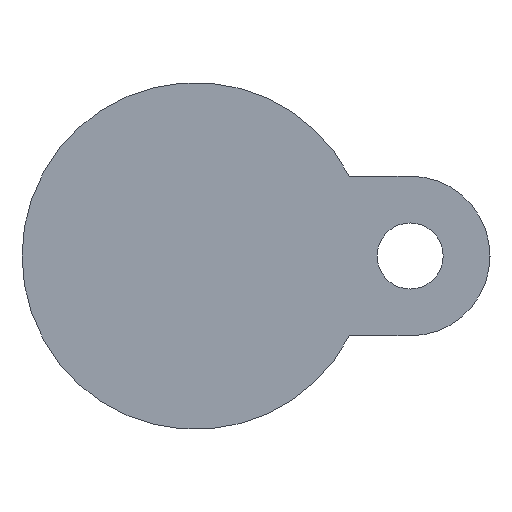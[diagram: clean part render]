
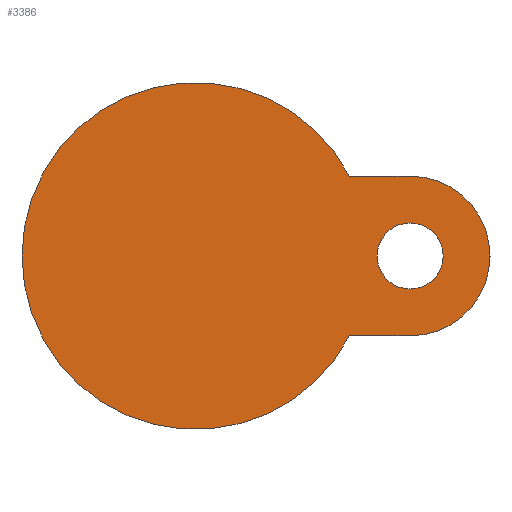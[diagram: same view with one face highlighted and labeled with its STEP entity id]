
A CAD part, front view. The second image highlights one B-rep face of the part: STEP entity #3386.
In plain terms, the highlighted planar face has unit normal (0, -1, 0).
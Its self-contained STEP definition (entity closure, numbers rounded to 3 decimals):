
#58 = ORIENTED_EDGE ( 'NONE', *, *, #1193, .F. ) ;
#71 = EDGE_LOOP ( 'NONE', ( #175, #2534, #1104, #2238, #4597, #906 ) ) ;
#129 = LINE ( 'NONE', #1836, #2260 ) ;
#147 = VERTEX_POINT ( 'NONE', #4168 ) ;
#175 = ORIENTED_EDGE ( 'NONE', *, *, #2978, .F. ) ;
#215 = PLANE ( 'NONE',  #5174 ) ;
#286 = DIRECTION ( 'NONE',  ( 1., 0., 0. ) ) ;
#389 = EDGE_CURVE ( 'NONE', #2065, #1574, #3755, .T. ) ;
#468 = AXIS2_PLACEMENT_3D ( 'NONE', #1947, #4059, #4861 ) ;
#683 = DIRECTION ( 'NONE',  ( 1., 0., 0. ) ) ;
#688 = DIRECTION ( 'NONE',  ( -1., 0., 0. ) ) ;
#712 = DIRECTION ( 'NONE',  ( 0., -1., 0. ) ) ;
#726 = DIRECTION ( 'NONE',  ( 0., -1., 0. ) ) ;
#906 = ORIENTED_EDGE ( 'NONE', *, *, #2159, .F. ) ;
#1020 = CARTESIAN_POINT ( 'NONE',  ( 39., -15., 0. ) ) ;
#1104 = ORIENTED_EDGE ( 'NONE', *, *, #389, .T. ) ;
#1193 = EDGE_CURVE ( 'NONE', #3497, #5123, #3227, .T. ) ;
#1302 = AXIS2_PLACEMENT_3D ( 'NONE', #1020, #2144, #2713 ) ;
#1303 = LINE ( 'NONE', #4058, #5366 ) ;
#1527 = DIRECTION ( 'NONE',  ( 1., 0., 0. ) ) ;
#1574 = VERTEX_POINT ( 'NONE', #2968 ) ;
#1575 = CIRCLE ( 'NONE', #1841, 31.5 ) ;
#1639 = CIRCLE ( 'NONE', #2966, 31.5 ) ;
#1836 = CARTESIAN_POINT ( 'NONE',  ( 16.055, -15., 14.5 ) ) ;
#1841 = AXIS2_PLACEMENT_3D ( 'NONE', #4722, #2296, #1851 ) ;
#1851 = DIRECTION ( 'NONE',  ( -1., 0., 0. ) ) ;
#1947 = CARTESIAN_POINT ( 'NONE',  ( 39., -15., 0. ) ) ;
#2002 = CARTESIAN_POINT ( 'NONE',  ( 27.964, -15., -14.5 ) ) ;
#2065 = VERTEX_POINT ( 'NONE', #4132 ) ;
#2144 = DIRECTION ( 'NONE',  ( 0., -1., 0. ) ) ;
#2159 = EDGE_CURVE ( 'NONE', #2587, #4067, #1575, .T. ) ;
#2238 = ORIENTED_EDGE ( 'NONE', *, *, #2538, .T. ) ;
#2260 = VECTOR ( 'NONE', #4294, 1000. ) ;
#2296 = DIRECTION ( 'NONE',  ( 0., 1., 0. ) ) ;
#2380 = CARTESIAN_POINT ( 'NONE',  ( 39., -15., 0. ) ) ;
#2534 = ORIENTED_EDGE ( 'NONE', *, *, #2920, .T. ) ;
#2538 = EDGE_CURVE ( 'NONE', #1574, #147, #3708, .T. ) ;
#2587 = VERTEX_POINT ( 'NONE', #5136 ) ;
#2594 = AXIS2_PLACEMENT_3D ( 'NONE', #4027, #712, #2755 ) ;
#2713 = DIRECTION ( 'NONE',  ( 1., 0., 0. ) ) ;
#2755 = DIRECTION ( 'NONE',  ( 1., 0., 0. ) ) ;
#2779 = CARTESIAN_POINT ( 'NONE',  ( 0., -15., 0. ) ) ;
#2883 = EDGE_CURVE ( 'NONE', #147, #4067, #129, .T. ) ;
#2920 = EDGE_CURVE ( 'NONE', #4921, #2065, #1303, .T. ) ;
#2934 = CARTESIAN_POINT ( 'NONE',  ( 45., -15., 0. ) ) ;
#2966 = AXIS2_PLACEMENT_3D ( 'NONE', #4911, #5309, #688 ) ;
#2968 = CARTESIAN_POINT ( 'NONE',  ( 53.5, -15., 0. ) ) ;
#2978 = EDGE_CURVE ( 'NONE', #4921, #2587, #1639, .T. ) ;
#3039 = EDGE_LOOP ( 'NONE', ( #58, #3299 ) ) ;
#3196 = FACE_BOUND ( 'NONE', #3039, .T. ) ;
#3227 = CIRCLE ( 'NONE', #4370, 6. ) ;
#3299 = ORIENTED_EDGE ( 'NONE', *, *, #3856, .F. ) ;
#3331 = CARTESIAN_POINT ( 'NONE',  ( 27.964, -15., 14.5 ) ) ;
#3386 = ADVANCED_FACE ( 'NONE', ( #3999, #3196 ), #215, .T. ) ;
#3497 = VERTEX_POINT ( 'NONE', #2934 ) ;
#3708 = CIRCLE ( 'NONE', #1302, 14.5 ) ;
#3746 = CIRCLE ( 'NONE', #468, 6. ) ;
#3755 = CIRCLE ( 'NONE', #2594, 14.5 ) ;
#3856 = EDGE_CURVE ( 'NONE', #5123, #3497, #3746, .T. ) ;
#3997 = CARTESIAN_POINT ( 'NONE',  ( 33., -15., 0. ) ) ;
#3999 = FACE_OUTER_BOUND ( 'NONE', #71, .T. ) ;
#4027 = CARTESIAN_POINT ( 'NONE',  ( 39., -15., 0. ) ) ;
#4058 = CARTESIAN_POINT ( 'NONE',  ( 39., -15., -14.5 ) ) ;
#4059 = DIRECTION ( 'NONE',  ( 0., -1., 0. ) ) ;
#4067 = VERTEX_POINT ( 'NONE', #3331 ) ;
#4132 = CARTESIAN_POINT ( 'NONE',  ( 39., -15., -14.5 ) ) ;
#4168 = CARTESIAN_POINT ( 'NONE',  ( 39., -15., 14.5 ) ) ;
#4294 = DIRECTION ( 'NONE',  ( -1., 0., 0. ) ) ;
#4370 = AXIS2_PLACEMENT_3D ( 'NONE', #2380, #726, #286 ) ;
#4463 = DIRECTION ( 'NONE',  ( 0., -1., 0. ) ) ;
#4597 = ORIENTED_EDGE ( 'NONE', *, *, #2883, .T. ) ;
#4722 = CARTESIAN_POINT ( 'NONE',  ( 0., -15., 0. ) ) ;
#4861 = DIRECTION ( 'NONE',  ( 1., 0., 0. ) ) ;
#4911 = CARTESIAN_POINT ( 'NONE',  ( 0., -15., 0. ) ) ;
#4921 = VERTEX_POINT ( 'NONE', #2002 ) ;
#5123 = VERTEX_POINT ( 'NONE', #3997 ) ;
#5136 = CARTESIAN_POINT ( 'NONE',  ( -31.5, -15., 0. ) ) ;
#5174 = AXIS2_PLACEMENT_3D ( 'NONE', #2779, #4463, #683 ) ;
#5309 = DIRECTION ( 'NONE',  ( 0., 1., 0. ) ) ;
#5366 = VECTOR ( 'NONE', #1527, 1000. ) ;
